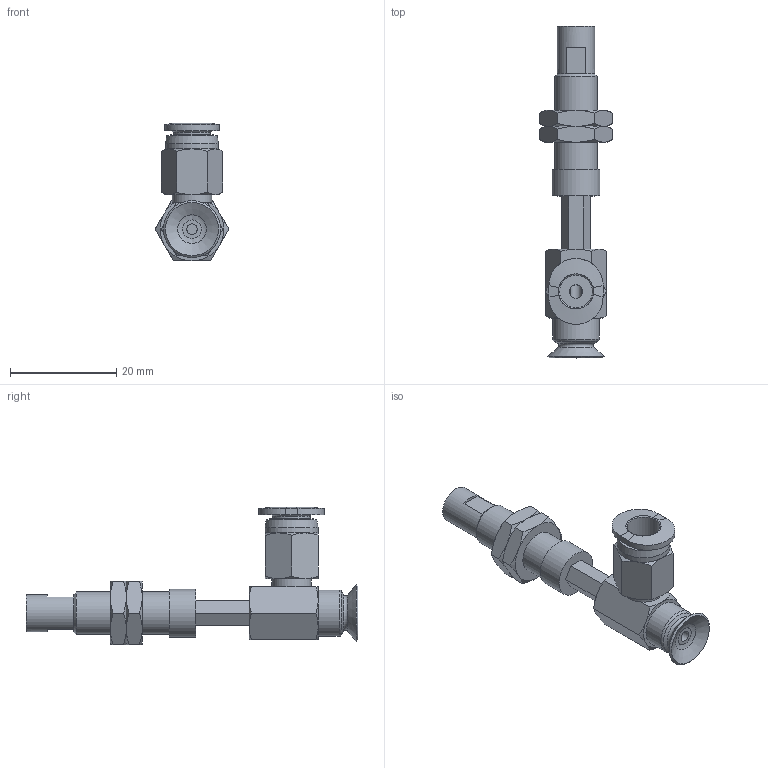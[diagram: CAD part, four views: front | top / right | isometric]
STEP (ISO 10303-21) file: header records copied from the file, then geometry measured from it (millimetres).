
FILE_DESCRIPTION(('STEP AP203'),'1');
FILE_NAME('-O.stp','2025-04-10T07:25:20',(' '),(' '),'Spatial InterOp 3D',' ',' ');
FILE_SCHEMA(('CONFIG_CONTROL_DESIGN'));
Length unit declared in the file: millimetre
Products named in the file (7): BNABPFYH-10A-10-※-O; CONNECTOR-H-10A-10; Nut-10A-10-h; NAPFTH-10A-10-FBODY; NAPFTH-10A-10-MBODY; BPFG-10A-※; PC-C_06-M5
Assembly tree (7 placements, depth 2):
  BNABPFYH-10A-10-※-O
    CONNECTOR-H-10A-10
    Nut-10A-10-h  x2
    NAPFTH-10A-10-FBODY
    NAPFTH-10A-10-MBODY
    BPFG-10A-※
    PC-C_06-M5
Bounding box: 13.86 x 62.5 x 25.98 mm (x, y, z)
Volume: 3493.6 mm3; surface area: 5341.7 mm2
Topology: 6 solids, 9 shells, 190 faces, 402 edges, 245 vertices
Faces by surface type: plane 81, cone 67, cylinder 24, torus 10, bspline 5, revolution 3
Full cylindrical faces by diameter (mm): 2 x2, 4 x4, 4.134 x2, 5 x2, 6 x2, 7 x2, 7.188 x2, 7.4 x1, 8 x1, 8.2 x1, 8.7 x1, 9 x1, 10 x1
Entity records: 4979 total; most frequent: CARTESIAN_POINT 1401, DIRECTION 663, ORIENTED_EDGE 586, EDGE_CURVE 295, AXIS2_PLACEMENT_3D 283, EDGE_LOOP 244, VERTEX_POINT 207, FACE_OUTER_BOUND 139
